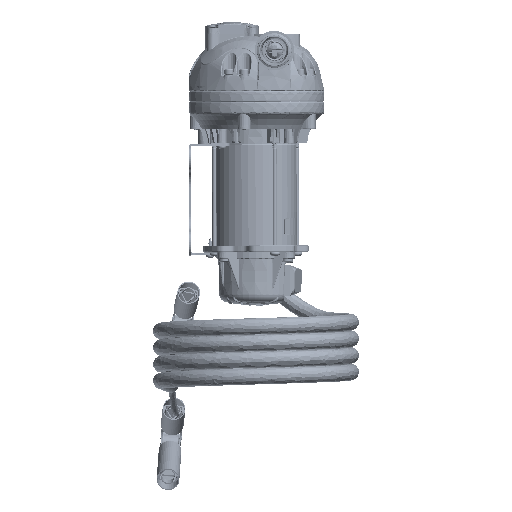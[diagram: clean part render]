
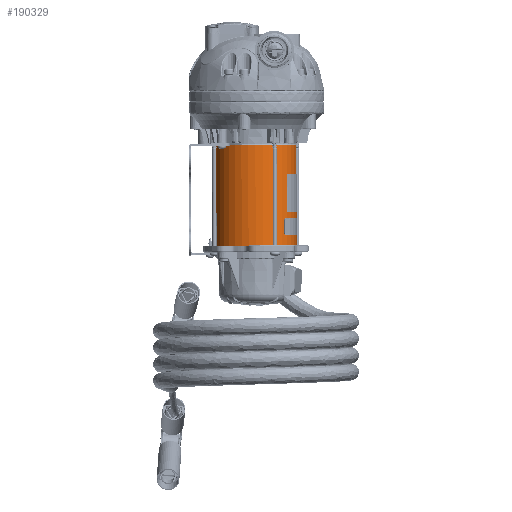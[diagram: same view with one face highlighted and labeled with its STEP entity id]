
A CAD part, left-side view. The second image highlights one B-rep face of the part: STEP entity #190329.
In plain terms, the highlighted cylindrical face has radius 38.65 mm (diameter 77.3 mm), a full revolution.
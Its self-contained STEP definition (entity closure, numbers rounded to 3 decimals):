
#4434=CYLINDRICAL_SURFACE('',#202639,38.65);
#7968=LINE('',#275210,#17650);
#17650=VECTOR('',#224168,38.65);
#32737=FACE_OUTER_BOUND('',#43959,.T.);
#43959=EDGE_LOOP('',(#124394,#124395,#124396,#124397,#124398,#124399));
#64104=CIRCLE('',#202637,38.65);
#64105=CIRCLE('',#202638,38.65);
#64106=CIRCLE('',#202640,38.65);
#64107=CIRCLE('',#202641,38.65);
#74112=VERTEX_POINT('',#275203);
#74113=VERTEX_POINT('',#275204);
#74114=VERTEX_POINT('',#275209);
#74115=VERTEX_POINT('',#275211);
#93129=EDGE_CURVE('',#74112,#74113,#64104,.T.);
#93130=EDGE_CURVE('',#74113,#74112,#64105,.T.);
#93132=EDGE_CURVE('',#74112,#74114,#7968,.T.);
#93133=EDGE_CURVE('',#74115,#74114,#64106,.T.);
#93134=EDGE_CURVE('',#74114,#74115,#64107,.T.);
#124394=ORIENTED_EDGE('',*,*,#93129,.T.);
#124395=ORIENTED_EDGE('',*,*,#93130,.T.);
#124396=ORIENTED_EDGE('',*,*,#93132,.T.);
#124397=ORIENTED_EDGE('',*,*,#93133,.F.);
#124398=ORIENTED_EDGE('',*,*,#93134,.F.);
#124399=ORIENTED_EDGE('',*,*,#93132,.F.);
#190329=ADVANCED_FACE('',(#32737),#4434,.T.);
#202637=AXIS2_PLACEMENT_3D('',#275205,#224161,#224162);
#202638=AXIS2_PLACEMENT_3D('',#275206,#224163,#224164);
#202639=AXIS2_PLACEMENT_3D('',#275208,#224166,#224167);
#202640=AXIS2_PLACEMENT_3D('',#275212,#224169,#224170);
#202641=AXIS2_PLACEMENT_3D('',#275213,#224171,#224172);
#224161=DIRECTION('center_axis',(-1.,0.,0.));
#224162=DIRECTION('ref_axis',(0.,0.,-1.));
#224163=DIRECTION('center_axis',(-1.,0.,0.));
#224164=DIRECTION('ref_axis',(0.,0.,-1.));
#224166=DIRECTION('center_axis',(1.,0.,0.));
#224167=DIRECTION('ref_axis',(0.,0.,-1.));
#224168=DIRECTION('',(-1.,0.,0.));
#224169=DIRECTION('center_axis',(-1.,0.,0.));
#224170=DIRECTION('ref_axis',(0.,0.,-1.));
#224171=DIRECTION('center_axis',(-1.,0.,0.));
#224172=DIRECTION('ref_axis',(0.,0.,-1.));
#275203=CARTESIAN_POINT('',(-71.859,-48.395,-5.277));
#275204=CARTESIAN_POINT('',(-71.859,-87.045,-43.927));
#275205=CARTESIAN_POINT('Origin',(-71.859,-48.395,-43.927));
#275206=CARTESIAN_POINT('Origin',(-71.859,-48.395,-43.927));
#275208=CARTESIAN_POINT('Origin',(-173.409,-48.395,-43.927));
#275209=CARTESIAN_POINT('',(-168.259,-48.395,-5.277));
#275210=CARTESIAN_POINT('',(-173.409,-48.395,-5.277));
#275211=CARTESIAN_POINT('',(-168.259,-87.045,-43.927));
#275212=CARTESIAN_POINT('Origin',(-168.259,-48.395,-43.927));
#275213=CARTESIAN_POINT('Origin',(-168.259,-48.395,-43.927));
